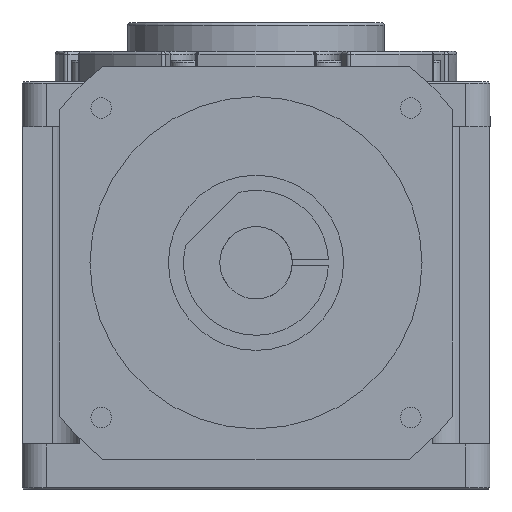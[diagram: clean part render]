
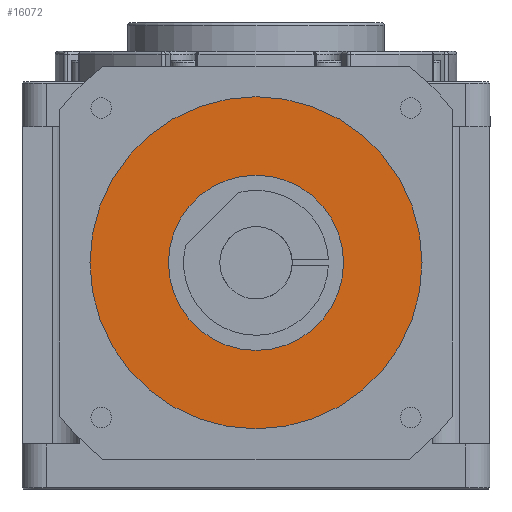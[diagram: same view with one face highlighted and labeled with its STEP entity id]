
A CAD part, front view. The second image highlights one B-rep face of the part: STEP entity #16072.
In plain terms, the highlighted planar face has unit normal (0, -1, 0) as drawn and (0, 0, -1) by its records, which use the part's own axes.
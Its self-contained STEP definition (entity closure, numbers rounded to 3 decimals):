
#42 = DIRECTION ( 'NONE',  ( 0., 0., -1. ) ) ;
#180 = CARTESIAN_POINT ( 'NONE',  ( 55., 0., -151. ) ) ;
#382 = CIRCLE ( 'NONE', #17097, 29. ) ;
#822 = DIRECTION ( 'NONE',  ( -1., 0., 0. ) ) ;
#1113 = AXIS2_PLACEMENT_3D ( 'NONE', #4110, #42, #2931 ) ;
#1436 = EDGE_CURVE ( 'NONE', #5831, #3826, #9514, .T. ) ;
#1569 = CARTESIAN_POINT ( 'NONE',  ( 0., 0., -151. ) ) ;
#2931 = DIRECTION ( 'NONE',  ( -1., 0., 0. ) ) ;
#3609 = CIRCLE ( 'NONE', #15434, 55. ) ;
#3826 = VERTEX_POINT ( 'NONE', #4756 ) ;
#4110 = CARTESIAN_POINT ( 'NONE',  ( 0., 0., -151. ) ) ;
#4534 = CARTESIAN_POINT ( 'NONE',  ( 0., 0., -151. ) ) ;
#4701 = VERTEX_POINT ( 'NONE', #9199 ) ;
#4756 = CARTESIAN_POINT ( 'NONE',  ( -55., 0., -151. ) ) ;
#4785 = ORIENTED_EDGE ( 'NONE', *, *, #6254, .T. ) ;
#5055 = CARTESIAN_POINT ( 'NONE',  ( 0., 0., -151. ) ) ;
#5790 = EDGE_LOOP ( 'NONE', ( #16063, #10824 ) ) ;
#5831 = VERTEX_POINT ( 'NONE', #180 ) ;
#5862 = AXIS2_PLACEMENT_3D ( 'NONE', #15153, #16494, #9471 ) ;
#6254 = EDGE_CURVE ( 'NONE', #3826, #5831, #3609, .T. ) ;
#6501 = AXIS2_PLACEMENT_3D ( 'NONE', #1569, #9866, #15370 ) ;
#6858 = FACE_OUTER_BOUND ( 'NONE', #8574, .T. ) ;
#8574 = EDGE_LOOP ( 'NONE', ( #4785, #16493 ) ) ;
#9199 = CARTESIAN_POINT ( 'NONE',  ( 29., 0., -151. ) ) ;
#9471 = DIRECTION ( 'NONE',  ( -1., 0., 0. ) ) ;
#9514 = CIRCLE ( 'NONE', #1113, 55. ) ;
#9866 = DIRECTION ( 'NONE',  ( 0., 0., -1. ) ) ;
#10550 = DIRECTION ( 'NONE',  ( 0., 0., -1. ) ) ;
#10741 = FACE_BOUND ( 'NONE', #5790, .T. ) ;
#10783 = VERTEX_POINT ( 'NONE', #14550 ) ;
#10824 = ORIENTED_EDGE ( 'NONE', *, *, #15850, .F. ) ;
#12000 = DIRECTION ( 'NONE',  ( -1., 0., 0. ) ) ;
#13355 = DIRECTION ( 'NONE',  ( 0., 0., -1. ) ) ;
#14275 = CIRCLE ( 'NONE', #6501, 29. ) ;
#14550 = CARTESIAN_POINT ( 'NONE',  ( -29., 0., -151. ) ) ;
#14796 = PLANE ( 'NONE',  #5862 ) ;
#15153 = CARTESIAN_POINT ( 'NONE',  ( 0., 0., -151. ) ) ;
#15370 = DIRECTION ( 'NONE',  ( -1., 0., 0. ) ) ;
#15434 = AXIS2_PLACEMENT_3D ( 'NONE', #5055, #10550, #12000 ) ;
#15850 = EDGE_CURVE ( 'NONE', #4701, #10783, #382, .T. ) ;
#16063 = ORIENTED_EDGE ( 'NONE', *, *, #17305, .F. ) ;
#16072 = ADVANCED_FACE ( 'NONE', ( #10741, #6858 ), #14796, .T. ) ;
#16493 = ORIENTED_EDGE ( 'NONE', *, *, #1436, .T. ) ;
#16494 = DIRECTION ( 'NONE',  ( 0., 0., -1. ) ) ;
#17097 = AXIS2_PLACEMENT_3D ( 'NONE', #4534, #13355, #822 ) ;
#17305 = EDGE_CURVE ( 'NONE', #10783, #4701, #14275, .T. ) ;
